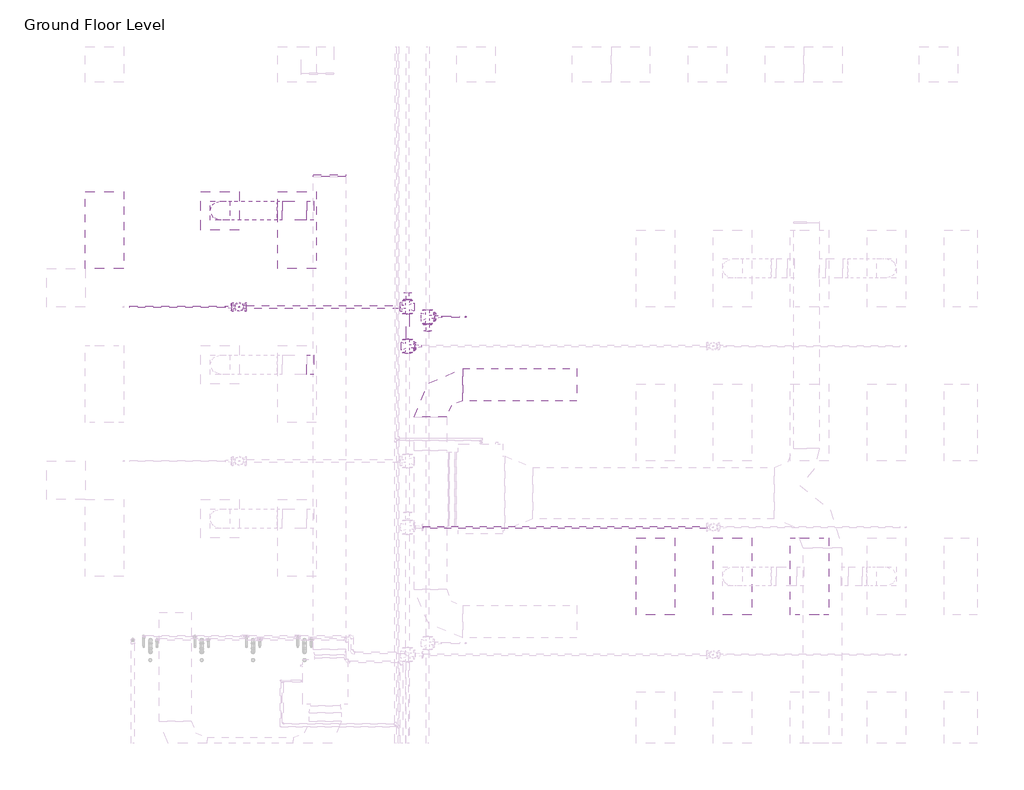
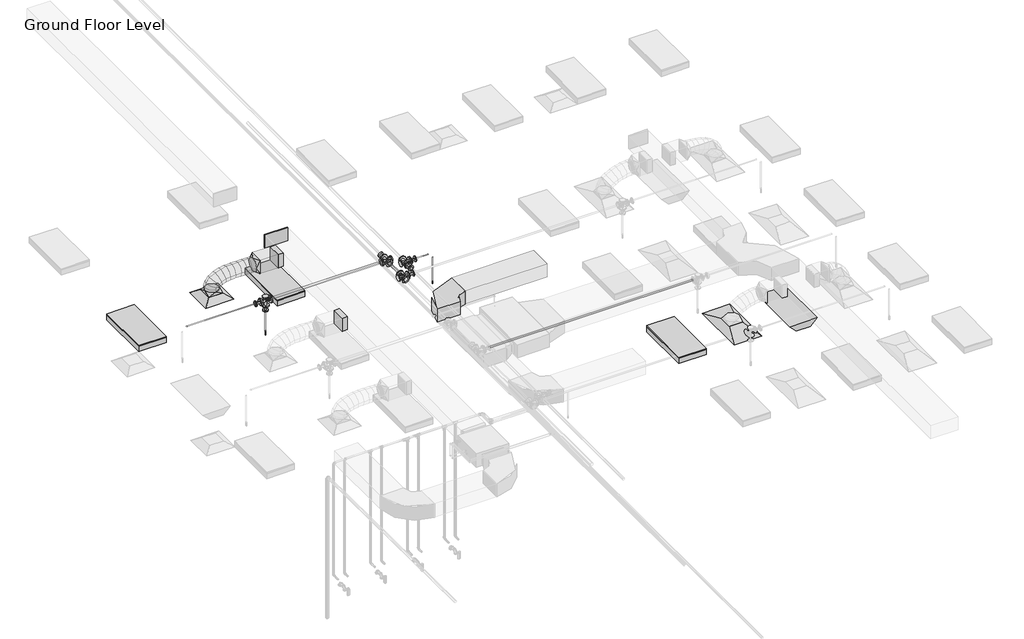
# One storey, part 27 of 75: 10 pipe fittings, 7 pipe segments, 6 duct fittings, 4 light fixtures, 3 duct segments, 2 air terminals, 2 fire suppression terminals.
"""IFC4 building model written with IfcOpenShell, lengths in millimetres."""

from ifc_helpers import new_model, si_unit, point, frame, frame_2d, origin, place, context, project, spatial, polyline, circle_curve, ellipse_curve, trimmed, segment, composite_curve, outline, extrude, transform, mapped, element, save
from ifc_brep_helpers import plane_surface, cylinder_surface, advanced_brep
from components import m_return_diffuser_1200x600_1200_x_600_face_300_x_300_d1983ef6, m_return_diffuser_600_x_600_face_300_x_300_connection_ff221211, m_rectangular_elbow_radius_1_w_abe20169, m_rectangular_endcap_standard_72d4d00d, m_rectangular_takeoff_standard_cb0ccb98, m_rectangular_to_round_transition_angle_45_degree_641efff0, m_sprinkler_dry_pendent_hosted_15_mm_dry_pendent_9bda8e11, m_sprinkler_pendent_15_mm_pendent_06fcbd8e, m_emergency_recessed_lighting_fixture_600x1200_277_5b10b25d, m_troffer_light_parabolic_rectangular1_0600x1200mm_4_lamp_86473d4a, m_reducer_flanged_cs_class_150_standard_83138b42, m_reducer_flanged_cs_class_150_standard_564df86d, m_reducer_flanged_cs_class_150_standard_8338f9e4, m_reducer_flanged_cs_class_150_standard_dc68ad9d, m_tee_round_base_flanged_cs_class_150_standard_ab36f383

model = new_model("IFC4")

# Units and contexts
model_context = context("Model", 3, world=origin())
ifc_project = project(units=[si_unit("LENGTHUNIT", "METRE", prefix="MILLI")], contexts=[model_context])

# Site, building, storey
site = spatial("IfcSite", under=ifc_project)
building = spatial("IfcBuilding", under=site)
storey = spatial("IfcBuildingStorey", under=building, Name="Ground Floor Level", Elevation=900.0)

# Air terminals
placement = place(None, origin())
m_return_diffuser_1200x600_1200_x_600_face_300_x_300_shape = m_return_diffuser_1200x600_1200_x_600_face_300_x_300_d1983ef6(model_context)
element("IfcAirTerminal", 1, ObjectType="M_Supply Diffuser 1200x600 : 1200 x 600 Face 300 x 300 Connection", at=placement, inside=storey, context=model_context, shape_type="MappedRepresentation", body=[
    mapped(m_return_diffuser_1200x600_1200_x_600_face_300_x_300_shape, transform((10743.0482736, -22864.7846466, 3650.0), x_axis=(0.0, 1.0, 0.0), y_axis=(-1.0, 0.0, 0.0), z_axis=(0.0, 0.0, 1.0))),
])
m_return_diffuser_600_x_600_face_300_x_300_connection_shape = m_return_diffuser_600_x_600_face_300_x_300_connection_ff221211(model_context)
element("IfcAirTerminal", 2, ObjectType="M_Supply Diffuser : 600 x 600 Face 300 x 300 Connection", at=placement, inside=storey, context=model_context, shape_type="MappedRepresentation", body=[
    mapped(m_return_diffuser_600_x_600_face_300_x_300_connection_shape, transform((2762.7672395, -17164.7846466, 3650.0), x_axis=(1.0, 0.0, 0.0), y_axis=(0.0, 1.0, 0.0), z_axis=(0.0, 0.0, 1.0))),
])

# Duct fittings
m_rectangular_elbow_radius_1_w_shape = m_rectangular_elbow_radius_1_w_abe20169(model_context)
element("IfcDuctFitting", 3, ObjectType="M_Rectangular Elbow - Radius : 1 W", at=placement, inside=storey, context=model_context, shape_type="MappedRepresentation", body=[
    mapped(m_rectangular_elbow_radius_1_w_shape, transform((6040.9897768, -19877.6206315, 4082.4543707), x_axis=(-1.0, 0.0, 0.0), y_axis=(0.0, -1.0, 0.0), z_axis=(0.0, 0.0, 1.0))),
])
m_rectangular_endcap_standard_shape = m_rectangular_endcap_standard_72d4d00d(model_context)
element("IfcDuctFitting", 4, ObjectType="M_Rectangular Endcap : Standard", at=placement, inside=storey, context=model_context, shape_type="MappedRepresentation", body=[
    mapped(m_rectangular_endcap_standard_shape, transform((4469.1581832, -16631.8627051, 4057.1429453), x_axis=(0.0, 0.999999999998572, -1.6899837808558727e-06), y_axis=(-1.0, 0.0, 0.0), z_axis=(0.0, 1.6899837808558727e-06, 0.999999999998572))),
])
m_rectangular_takeoff_standard_shape = m_rectangular_takeoff_standard_cb0ccb98(model_context)
element("IfcDuctFitting", 5, ObjectType="M_Rectangular Takeoff : Standard", at=placement, inside=storey, context=model_context, shape_type="MappedRepresentation", body=[
    mapped(m_rectangular_takeoff_standard_shape, transform((4219.1581832, -19564.7846466, 4057.1479019), x_axis=(-1.0, 0.0, 0.0), y_axis=(0.0, 1.0, 0.0), z_axis=(0.0, 0.0, -1.0))),
])
element("IfcDuctFitting", 6, ObjectType="M_Rectangular Takeoff : Standard", at=placement, inside=storey, context=model_context, shape_type="MappedRepresentation", body=[
    mapped(m_rectangular_takeoff_standard_shape, transform((4219.1581832, -17164.7846466, 4057.143846), x_axis=(-1.0, 0.0, 0.0), y_axis=(0.0, 1.0, 0.0), z_axis=(0.0, 0.0, -1.0))),
])
m_rectangular_to_round_transition_angle_45_degree_shape = m_rectangular_to_round_transition_angle_45_degree_641efff0(model_context)
element("IfcDuctFitting", 7, ObjectType="M_Rectangular to Round Transition - Angle : 45 Degree", at=placement, inside=storey, context=model_context, shape_type="MappedRepresentation", body=[
    mapped(m_rectangular_to_round_transition_angle_45_degree_shape, transform((2762.7672395, -17164.7846466, 3751.6), x_axis=(0.0, 0.0, 1.0), y_axis=(-1.0, 0.0, 0.0), z_axis=(0.0, -1.0, 0.0))),
])
element("IfcDuctFitting", 8, ObjectType="M_Rectangular to Round Transition - Angle : 45 Degree", at=placement, inside=storey, context=model_context, shape_type="MappedRepresentation", body=[
    mapped(m_rectangular_to_round_transition_angle_45_degree_shape, transform((3732.9593248, -17164.7846466, 4057.143846), x_axis=(-1.0, 0.0, 0.0), y_axis=(0.0, -1.0, 0.0), z_axis=(0.0, 0.0, 1.0))),
])

# Duct segments
element("IfcDuctSegment", 9, ObjectType="Flex - Round", at=placement, inside=storey, context=model_context, shape_type="AdvancedBrep", body=[
    advanced_brep(
    [(2912.7672395, -17164.7846466, 3826.6), (2762.7672395, -17314.7846466, 3826.6), (2612.7672395, -17164.7846466, 3826.6), (2762.7672395, -17014.7846466, 3826.6), (2912.7672395, -17164.7846466, 3832.8904054), (2762.7672395, -17314.7846466, 3856.84963), (2612.7672395, -17164.7846466, 3880.8088546), (2762.7672395, -17014.7846466, 3856.84963), (2914.0857611, -17164.7846466, 3836.9124951), (2779.5129985, -17314.7846466, 3907.9318018), (2644.940236, -17164.7846466, 3978.9511085), (2779.5129985, -17014.7846466, 3907.9318018), (2928.1333628, -17164.7846466, 3855.2232955), (2826.2863476, -17314.7846466, 3968.9000352), (2724.4393324, -17164.7846466, 4082.5767748), (2826.2863476, -17014.7846466, 3968.9000352), (2960.0749195, -17164.7846466, 3874.5762626), (2897.8913945, -17314.7846466, 4012.2845867), (2835.7078695, -17164.7846466, 4149.9929109), (2897.8913945, -17014.7846466, 4012.2845867), (3023.3474104, -17164.7846466, 3894.3960649), (2989.1322471, -17314.7846466, 4040.8653433), (2954.9170839, -17164.7846466, 4187.3346218), (2989.1322471, -17014.7846466, 4040.8653433), (3111.2188579, -17164.7846466, 3908.1627538), (3094.8130134, -17314.7846466, 4057.4221917), (3078.407169, -17164.7846466, 4206.6816296), (3094.8130134, -17014.7846466, 4057.4221917), (3215.0397402, -17164.7846466, 3914.7690234), (3209.7378012, -17314.7846466, 4064.7350186), (3204.4358622, -17164.7846466, 4214.7010137), (3209.7378012, -17014.7846466, 4064.7350186), (3327.4409955, -17164.7846466, 3915.5708367), (3328.7107184, -17314.7846466, 4065.5837107), (3329.9804412, -17164.7846466, 4215.5965847), (3328.7107184, -17014.7846466, 4065.5837107), (3442.2167216, -17164.7846466, 3912.8086677), (3446.5358728, -17314.7846466, 4062.7481548), (3450.855024, -17164.7846466, 4212.6876419), (3446.5358728, -17014.7846466, 4062.7481548), (3554.063392, -17164.7846466, 3909.0565), (3558.0173723, -17314.7846466, 4059.0082376), (3561.9713526, -17164.7846466, 4208.9599753), (3558.0173723, -17014.7846466, 4059.0082376), (3657.9593248, -17164.7846466, 3907.143846), (3657.9593248, -17014.7846466, 4057.143846), (3657.9593248, -17164.7846466, 4207.143846), (3657.9593248, -17314.7846466, 4057.143846), (3653.7223326, -17164.7846466, 3907.143846), (3655.1615998, -17314.7846466, 4057.143846), (3656.600867, -17164.7846466, 4207.143846), (3655.1615998, -17014.7846466, 4057.143846)],
    [
        (0, 1, circle_curve(frame((2762.7672395, -17164.7846466, 3826.6), z_axis=(0.0, 0.0, -1.0), x_axis=(1.0, 0.0, 0.0)), 150.0)),
        (1, 2, circle_curve(frame((2762.7672395, -17164.7846466, 3826.6), z_axis=(0.0, 0.0, -1.0), x_axis=(1.0, 0.0, 0.0)), 150.0)),
        (2, 3, circle_curve(frame((2762.7672395, -17164.7846466, 3826.6), z_axis=(0.0, 0.0, -1.0), x_axis=(1.0, 0.0, 0.0)), 150.0)),
        (3, 0, circle_curve(frame((2762.7672395, -17164.7846466, 3826.6), z_axis=(0.0, 0.0, -1.0), x_axis=(1.0, 0.0, 0.0)), 150.0)),
        (0, 4),
        (4, 5, ellipse_curve(frame((2762.7672395, -17164.7846466, 3856.84963), z_axis=(-0.1577287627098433, 0.0, -0.9874824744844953), x_axis=(0.9874824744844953, 0.0, -0.15772876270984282)), 151.90143, 150.0)),
        (5, 1),
        (5, 6, ellipse_curve(frame((2762.7672395, -17164.7846466, 3856.84963), z_axis=(-0.1577287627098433, 0.0, -0.9874824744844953), x_axis=(0.9874824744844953, 0.0, -0.15772876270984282)), 151.90143, 150.0)),
        (6, 2),
        (6, 7, ellipse_curve(frame((2762.7672395, -17164.7846466, 3856.84963), z_axis=(-0.1577287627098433, 0.0, -0.9874824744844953), x_axis=(0.9874824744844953, 0.0, -0.15772876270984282)), 151.90143, 150.0)),
        (7, 3),
        (7, 4, ellipse_curve(frame((2762.7672395, -17164.7846466, 3856.84963), z_axis=(-0.1577287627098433, 0.0, -0.9874824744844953), x_axis=(0.9874824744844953, 0.0, -0.15772876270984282)), 151.90143, 150.0)),
        (4, 8),
        (8, 9, ellipse_curve(frame((2779.5129985, -17164.7846466, 3907.9318018), z_axis=(-0.4667318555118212, 0.0, -0.8843988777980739), x_axis=(0.8843988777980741, 0.0, -0.4667318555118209)), 152.162973, 150.0)),
        (9, 5),
        (9, 10, ellipse_curve(frame((2779.5129985, -17164.7846466, 3907.9318018), z_axis=(-0.4667318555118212, 0.0, -0.8843988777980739), x_axis=(0.8843988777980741, 0.0, -0.4667318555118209)), 152.162973, 150.0)),
        (10, 6),
        (10, 11, ellipse_curve(frame((2779.5129985, -17164.7846466, 3907.9318018), z_axis=(-0.4667318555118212, 0.0, -0.8843988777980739), x_axis=(0.8843988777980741, 0.0, -0.4667318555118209)), 152.162973, 150.0)),
        (11, 7),
        (11, 8, ellipse_curve(frame((2779.5129985, -17164.7846466, 3907.9318018), z_axis=(-0.4667318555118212, 0.0, -0.8843988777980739), x_axis=(0.8843988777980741, 0.0, -0.4667318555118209)), 152.162973, 150.0)),
        (8, 12),
        (12, 13, ellipse_curve(frame((2826.2863476, -17164.7846466, 3968.9000352), z_axis=(-0.7447975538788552, 0.0, -0.6672904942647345), x_axis=(0.667290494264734, 0.0, -0.7447975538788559)), 152.6277027, 150.0)),
        (13, 9),
        (13, 14, ellipse_curve(frame((2826.2863476, -17164.7846466, 3968.9000352), z_axis=(-0.7447975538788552, 0.0, -0.6672904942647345), x_axis=(0.667290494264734, 0.0, -0.7447975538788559)), 152.6277027, 150.0)),
        (14, 10),
        (14, 15, ellipse_curve(frame((2826.2863476, -17164.7846466, 3968.9000352), z_axis=(-0.7447975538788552, 0.0, -0.6672904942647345), x_axis=(0.667290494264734, 0.0, -0.7447975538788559)), 152.6277027, 150.0)),
        (15, 11),
        (15, 12, ellipse_curve(frame((2826.2863476, -17164.7846466, 3968.9000352), z_axis=(-0.7447975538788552, 0.0, -0.6672904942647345), x_axis=(0.667290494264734, 0.0, -0.7447975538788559)), 152.6277027, 150.0)),
        (12, 16),
        (16, 17, ellipse_curve(frame((2897.8913945, -17164.7846466, 4012.2845867), z_axis=(-0.9113887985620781, 0.0, -0.41154642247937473), x_axis=(0.41154642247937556, 0.0, -0.9113887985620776)), 151.0972314, 150.0)),
        (17, 13),
        (17, 18, ellipse_curve(frame((2897.8913945, -17164.7846466, 4012.2845867), z_axis=(-0.9113887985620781, 0.0, -0.41154642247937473), x_axis=(0.41154642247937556, 0.0, -0.9113887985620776)), 151.0972314, 150.0)),
        (18, 14),
        (18, 19, ellipse_curve(frame((2897.8913945, -17164.7846466, 4012.2845867), z_axis=(-0.9113887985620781, 0.0, -0.41154642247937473), x_axis=(0.41154642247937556, 0.0, -0.9113887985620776)), 151.0972314, 150.0)),
        (19, 15),
        (19, 16, ellipse_curve(frame((2897.8913945, -17164.7846466, 4012.2845867), z_axis=(-0.9113887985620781, 0.0, -0.41154642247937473), x_axis=(0.41154642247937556, 0.0, -0.9113887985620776)), 151.0972314, 150.0)),
        (16, 20),
        (20, 21, ellipse_curve(frame((2989.1322471, -17164.7846466, 4040.8653433), z_axis=(-0.9737838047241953, 0.0, -0.2274754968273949), x_axis=(0.22747549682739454, 0.0, -0.9737838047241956)), 150.4125225, 150.0)),
        (21, 17),
        (21, 22, ellipse_curve(frame((2989.1322471, -17164.7846466, 4040.8653433), z_axis=(-0.9737838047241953, 0.0, -0.2274754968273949), x_axis=(0.22747549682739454, 0.0, -0.9737838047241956)), 150.4125225, 150.0)),
        (22, 18),
        (22, 23, ellipse_curve(frame((2989.1322471, -17164.7846466, 4040.8653433), z_axis=(-0.9737838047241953, 0.0, -0.2274754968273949), x_axis=(0.22747549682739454, 0.0, -0.9737838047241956)), 150.4125225, 150.0)),
        (23, 19),
        (23, 20, ellipse_curve(frame((2989.1322471, -17164.7846466, 4040.8653433), z_axis=(-0.9737838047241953, 0.0, -0.2274754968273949), x_axis=(0.22747549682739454, 0.0, -0.9737838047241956)), 150.4125225, 150.0)),
        (20, 24),
        (24, 25, ellipse_curve(frame((3094.8130134, -17164.7846466, 4057.4221917), z_axis=(-0.9940135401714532, 0.0, -0.10925695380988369), x_axis=(0.1092569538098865, 0.0, -0.9940135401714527)), 150.1583549, 150.0)),
        (25, 21),
        (25, 26, ellipse_curve(frame((3094.8130134, -17164.7846466, 4057.4221917), z_axis=(-0.9940135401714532, 0.0, -0.10925695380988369), x_axis=(0.1092569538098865, 0.0, -0.9940135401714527)), 150.1583549, 150.0)),
        (26, 22),
        (26, 27, ellipse_curve(frame((3094.8130134, -17164.7846466, 4057.4221917), z_axis=(-0.9940135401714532, 0.0, -0.10925695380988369), x_axis=(0.1092569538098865, 0.0, -0.9940135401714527)), 150.1583549, 150.0)),
        (27, 23),
        (27, 24, ellipse_curve(frame((3094.8130134, -17164.7846466, 4057.4221917), z_axis=(-0.9940135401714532, 0.0, -0.10925695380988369), x_axis=(0.1092569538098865, 0.0, -0.9940135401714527)), 150.1583549, 150.0)),
        (24, 28),
        (28, 29, ellipse_curve(frame((3209.7378012, -17164.7846466, 4064.7350186), z_axis=(-0.999375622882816, 0.0, -0.035332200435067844), x_axis=(0.035332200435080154, 0.0, -0.9993756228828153)), 150.059689, 150.0)),
        (29, 25),
        (29, 30, ellipse_curve(frame((3209.7378012, -17164.7846466, 4064.7350186), z_axis=(-0.999375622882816, 0.0, -0.035332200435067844), x_axis=(0.035332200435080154, 0.0, -0.9993756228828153)), 150.059689, 150.0)),
        (30, 26),
        (30, 31, ellipse_curve(frame((3209.7378012, -17164.7846466, 4064.7350186), z_axis=(-0.999375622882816, 0.0, -0.035332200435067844), x_axis=(0.035332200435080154, 0.0, -0.9993756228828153)), 150.059689, 150.0)),
        (31, 27),
        (31, 28, ellipse_curve(frame((3209.7378012, -17164.7846466, 4064.7350186), z_axis=(-0.999375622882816, 0.0, -0.035332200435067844), x_axis=(0.035332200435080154, 0.0, -0.9993756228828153)), 150.059689, 150.0)),
        (28, 32),
        (32, 33, ellipse_curve(frame((3328.7107184, -17164.7846466, 4065.5837107), z_axis=(-0.9999641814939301, 0.0, 0.008463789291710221), x_axis=(-0.00846378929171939, 0.0, -0.9999641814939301)), 150.0182474, 150.0)),
        (33, 29),
        (33, 34, ellipse_curve(frame((3328.7107184, -17164.7846466, 4065.5837107), z_axis=(-0.9999641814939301, 0.0, 0.008463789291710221), x_axis=(-0.00846378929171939, 0.0, -0.9999641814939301)), 150.0182474, 150.0)),
        (34, 30),
        (34, 35, ellipse_curve(frame((3328.7107184, -17164.7846466, 4065.5837107), z_axis=(-0.9999641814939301, 0.0, 0.008463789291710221), x_axis=(-0.00846378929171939, 0.0, -0.9999641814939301)), 150.0182474, 150.0)),
        (35, 31),
        (35, 32, ellipse_curve(frame((3328.7107184, -17164.7846466, 4065.5837107), z_axis=(-0.9999641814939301, 0.0, 0.008463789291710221), x_axis=(-0.00846378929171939, 0.0, -0.9999641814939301)), 150.0182474, 150.0)),
        (32, 36),
        (36, 37, ellipse_curve(frame((3446.5358728, -17164.7846466, 4062.7481548), z_axis=(-0.9995853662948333, 0.0, 0.02879401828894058), x_axis=(-0.028794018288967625, -3.989114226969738e-12, -0.9995853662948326)), 150.0016828, 150.0)),
        (37, 33),
        (37, 38, ellipse_curve(frame((3446.5358728, -17164.7846466, 4062.7481548), z_axis=(-0.9995853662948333, 0.0, 0.02879401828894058), x_axis=(-0.028794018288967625, -3.989114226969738e-12, -0.9995853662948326)), 150.0016828, 150.0)),
        (38, 34),
        (38, 39, ellipse_curve(frame((3446.5358728, -17164.7846466, 4062.7481548), z_axis=(-0.9995853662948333, 0.0, 0.02879401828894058), x_axis=(-0.028794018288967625, -3.989114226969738e-12, -0.9995853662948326)), 150.0016828, 150.0)),
        (39, 35),
        (39, 36, ellipse_curve(frame((3446.5358728, -17164.7846466, 4062.7481548), z_axis=(-0.9995853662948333, 0.0, 0.02879401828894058), x_axis=(-0.028794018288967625, -3.989114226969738e-12, -0.9995853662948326)), 150.0016828, 150.0)),
        (36, 40),
        (40, 41, ellipse_curve(frame((3558.0173723, -17164.7846466, 4059.0082376), z_axis=(-0.9996525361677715, 0.0, 0.026359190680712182), x_axis=(0.026359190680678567, 1.3534899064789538e-12, 0.9996525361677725)), 150.0038586, 150.0)),
        (41, 37),
        (41, 42, ellipse_curve(frame((3558.0173723, -17164.7846466, 4059.0082376), z_axis=(-0.9996525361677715, 0.0, 0.026359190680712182), x_axis=(0.026359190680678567, 1.3534899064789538e-12, 0.9996525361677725)), 150.0038586, 150.0)),
        (42, 38),
        (42, 43, ellipse_curve(frame((3558.0173723, -17164.7846466, 4059.0082376), z_axis=(-0.9996525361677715, 0.0, 0.026359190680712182), x_axis=(0.026359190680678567, 1.3534899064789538e-12, 0.9996525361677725)), 150.0038586, 150.0)),
        (43, 39),
        (43, 40, ellipse_curve(frame((3558.0173723, -17164.7846466, 4059.0082376), z_axis=(-0.9996525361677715, 0.0, 0.026359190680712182), x_axis=(0.026359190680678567, 1.3534899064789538e-12, 0.9996525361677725)), 150.0038586, 150.0)),
        (44, 45, circle_curve(frame((3657.9593248, -17164.7846466, 4057.143846), z_axis=(1.0, 0.0, 0.0), x_axis=(0.0, 0.0, -1.0)), 150.0)),
        (45, 46, circle_curve(frame((3657.9593248, -17164.7846466, 4057.143846), z_axis=(1.0, 0.0, 0.0), x_axis=(0.0, 0.0, -1.0)), 150.0)),
        (46, 47, circle_curve(frame((3657.9593248, -17164.7846466, 4057.143846), z_axis=(1.0, 0.0, 0.0), x_axis=(0.0, 0.0, -1.0)), 150.0)),
        (47, 44, circle_curve(frame((3657.9593248, -17164.7846466, 4057.143846), z_axis=(1.0, 0.0, 0.0), x_axis=(0.0, 0.0, -1.0)), 150.0)),
        (40, 48),
        (48, 49, ellipse_curve(frame((3655.1615998, -17164.7846466, 4057.143846), z_axis=(-0.999953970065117, 0.0, 0.009594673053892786), x_axis=(0.00959467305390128, 0.0, 0.999953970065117)), 150.0069048, 150.0)),
        (49, 41),
        (49, 50, ellipse_curve(frame((3655.1615998, -17164.7846466, 4057.143846), z_axis=(-0.999953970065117, 0.0, 0.009594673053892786), x_axis=(0.00959467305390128, 0.0, 0.999953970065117)), 150.0069048, 150.0)),
        (50, 42),
        (50, 51, ellipse_curve(frame((3655.1615998, -17164.7846466, 4057.143846), z_axis=(-0.999953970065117, 0.0, 0.009594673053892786), x_axis=(0.00959467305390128, 0.0, 0.999953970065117)), 150.0069048, 150.0)),
        (51, 43),
        (51, 48, ellipse_curve(frame((3655.1615998, -17164.7846466, 4057.143846), z_axis=(-0.999953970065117, 0.0, 0.009594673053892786), x_axis=(0.00959467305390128, 0.0, 0.999953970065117)), 150.0069048, 150.0)),
        (48, 44),
        (47, 49),
        (46, 50),
        (45, 51),
    ],
    [
        plane_surface(frame((2762.7672395, -17314.7846466, 3826.6), z_axis=(0.0, 0.0, -1.0), x_axis=(1.0, 0.0, 0.0))),
        cylinder_surface(frame((2762.7672395, -17164.7846466, 3826.6), z_axis=(0.0, 0.0, -1.0), x_axis=(1.0, 0.0, 0.0)), 150.0),
        cylinder_surface(frame((2762.7672395, -17164.7846466, 3856.84963), z_axis=(-0.3115087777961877, 0.0, -0.9502432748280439), x_axis=(0.9502432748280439, 0.0, -0.3115087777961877)), 150.0),
        cylinder_surface(frame((2779.5129985, -17164.7846466, 3907.9318018), z_axis=(-0.6086858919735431, 0.0, -0.7934112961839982), x_axis=(0.7934112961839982, 0.0, -0.6086858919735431)), 150.0),
        cylinder_surface(frame((2826.2863476, -17164.7846466, 3968.9000352), z_axis=(-0.8552637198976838, 0.0, -0.5181929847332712), x_axis=(0.5181929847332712, 0.0, -0.8552637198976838)), 150.0),
        cylinder_surface(frame((2897.8913945, -17164.7846466, 4012.2845867), z_axis=(-0.9542773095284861, 0.0, -0.2989227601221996), x_axis=(0.2989227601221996, 0.0, -0.9542773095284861)), 150.0),
        cylinder_surface(frame((2989.1322471, -17164.7846466, 4040.8653433), z_axis=(-0.9879488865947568, 0.0, -0.15478048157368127), x_axis=(0.15478048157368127, 0.0, -0.9879488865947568)), 150.0),
        cylinder_surface(frame((3094.8130134, -17164.7846466, 4057.4221917), z_axis=(-0.9979816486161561, 0.0, -0.06350298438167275), x_axis=(0.06350298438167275, 0.0, -0.9979816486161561)), 150.0),
        cylinder_surface(frame((3209.7378012, -17164.7846466, 4064.7350186), z_axis=(-0.9999745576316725, 0.0, -0.007133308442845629), x_axis=(0.007133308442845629, 0.0, -0.9999745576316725)), 150.0),
        cylinder_surface(frame((3328.7107184, -17164.7846466, 4065.5837107), z_axis=(-0.9997105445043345, 0.0, 0.024058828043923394), x_axis=(-0.024058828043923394, 0.0, -0.9997105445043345)), 150.0),
        cylinder_surface(frame((3446.5358728, -17164.7846466, 4062.7481548), z_axis=(-0.9994377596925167, 0.0, 0.03352856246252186), x_axis=(-0.03352856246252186, 0.0, -0.9994377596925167)), 150.0),
        plane_surface(frame((3657.9593248, -17164.7846466, 3907.143846), z_axis=(1.0, 0.0, 0.0), x_axis=(0.0, 1.0, 0.0))),
        cylinder_surface(frame((3558.0173723, -17164.7846466, 4059.0082376), z_axis=(-0.9998158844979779, 0.0, 0.019188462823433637), x_axis=(-0.019188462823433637, 0.0, -0.9998158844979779)), 150.0),
        cylinder_surface(frame((3655.1615998, -17164.7846466, 4057.143846), z_axis=(-1.0, 0.0, 0.0), x_axis=(0.0, 0.0, -1.0)), 150.0),
    ],
    [
        (0, [[1, 2, 3, 4]]),
        (1, [[-1, 5, 6, 7]]),
        (1, [[-2, -7, 8, 9]]),
        (1, [[-3, -9, 10, 11]]),
        (1, [[-4, -11, 12, -5]]),
        (2, [[-6, 13, 14, 15]]),
        (2, [[-8, -15, 16, 17]]),
        (2, [[-10, -17, 18, 19]]),
        (2, [[-12, -19, 20, -13]]),
        (3, [[-14, 21, 22, 23]]),
        (3, [[-16, -23, 24, 25]]),
        (3, [[-18, -25, 26, 27]]),
        (3, [[-20, -27, 28, -21]]),
        (4, [[-22, 29, 30, 31]]),
        (4, [[-24, -31, 32, 33]]),
        (4, [[-26, -33, 34, 35]]),
        (4, [[-28, -35, 36, -29]]),
        (5, [[-30, 37, 38, 39]]),
        (5, [[-32, -39, 40, 41]]),
        (5, [[-34, -41, 42, 43]]),
        (5, [[-36, -43, 44, -37]]),
        (6, [[-38, 45, 46, 47]]),
        (6, [[-40, -47, 48, 49]]),
        (6, [[-42, -49, 50, 51]]),
        (6, [[-44, -51, 52, -45]]),
        (7, [[-46, 53, 54, 55]]),
        (7, [[-48, -55, 56, 57]]),
        (7, [[-50, -57, 58, 59]]),
        (7, [[-52, -59, 60, -53]]),
        (8, [[-54, 61, 62, 63]]),
        (8, [[-56, -63, 64, 65]]),
        (8, [[-58, -65, 66, 67]]),
        (8, [[-60, -67, 68, -61]]),
        (9, [[-62, 69, 70, 71]]),
        (9, [[-64, -71, 72, 73]]),
        (9, [[-66, -73, 74, 75]]),
        (9, [[-68, -75, 76, -69]]),
        (10, [[-70, 77, 78, 79]]),
        (10, [[-72, -79, 80, 81]]),
        (10, [[-74, -81, 82, 83]]),
        (10, [[-76, -83, 84, -77]]),
        (11, [[85, 86, 87, 88]]),
        (12, [[-78, 89, 90, 91]]),
        (12, [[-80, -91, 92, 93]]),
        (12, [[-82, -93, 94, 95]]),
        (12, [[-84, -95, 96, -89]]),
        (13, [[-90, 97, -88, 98]]),
        (13, [[-92, -98, -87, 99]]),
        (13, [[-94, -99, -86, 100]]),
        (13, [[-96, -100, -85, -97]]),
    ],
),
])
element("IfcDuctSegment", 10, ObjectType="Radius Elbows / Taps", at=placement, inside=storey, context=model_context, shape_type="SweptSolid", body=[
    extrude(outline(polyline([(6540.9897768, -20127.6206315), (6540.9897768, -19627.6206315), (8320.9897766, -19627.6206315), (8320.9897766, -20127.6206315), (6540.9897768, -20127.6206315)])), frame((0.0, 0.0, 3932.4543707), z_axis=(0.0, 0.0, 1.0), x_axis=(1.0, 0.0, 0.0)), (0.0, 0.0, 1.0), 300.0),
])
element("IfcDuctSegment", 11, ObjectType="Radius Elbows / Taps", at=placement, inside=storey, context=model_context, shape_type="SweptSolid", body=[
    extrude(outline(polyline([(4117.5581832, -17014.7846466), (4117.5581832, -17314.7846466), (3732.9593248, -17314.7846466), (3732.9593248, -17014.7846466), (4117.5581832, -17014.7846466)])), frame((0.0, 0.0, 3907.143846), z_axis=(0.0, 0.0, 1.0), x_axis=(1.0, 0.0, 0.0)), (0.0, 0.0, 1.0), 300.0),
])

# Fire suppression terminals
m_sprinkler_dry_pendent_hosted_15_mm_dry_pendent_shape = m_sprinkler_dry_pendent_hosted_15_mm_dry_pendent_9bda8e11(model_context)
element("IfcFireSuppressionTerminal", 12, ObjectType="M_Sprinkler - Dry - Pendent - Hosted : 15 mm Dry Pendent", at=placement, inside=storey, context=model_context, shape_type="MappedRepresentation", body=[
    mapped(m_sprinkler_dry_pendent_hosted_15_mm_dry_pendent_shape, transform((3062.7672395, -18664.7846466, 3650.0), x_axis=(1.0, 0.0, 0.0), y_axis=(0.0, -1.0, 0.0), z_axis=(0.0, 0.0, -1.0))),
])
m_sprinkler_pendent_15_mm_pendent_shape = m_sprinkler_pendent_15_mm_pendent_06fcbd8e(model_context)
element("IfcFireSuppressionTerminal", 13, ObjectType="M_Sprinkler - Pendent : 15 mm Pendent", at=placement, inside=storey, context=model_context, shape_type="MappedRepresentation", body=[
    mapped(m_sprinkler_pendent_15_mm_pendent_shape, transform((6592.5481019, -18818.869914, 3650.0), x_axis=(1.0, 0.0, 0.0), y_axis=(0.0, 1.0, 0.0), z_axis=(0.0, 0.0, 1.0))),
])

# Light fixtures
m_emergency_recessed_lighting_fixture_600x1200_277_shape = m_emergency_recessed_lighting_fixture_600x1200_277_5b10b25d(model_context)
element("IfcLightFixture", 14, ObjectType="M_Emergency Recessed Lighting Fixture : 600x1200 - 277", at=placement, inside=storey, context=model_context, shape_type="MappedRepresentation", body=[
    mapped(m_emergency_recessed_lighting_fixture_600x1200_277_shape, transform((11643.0482736, -23464.7846466, 3650.0), x_axis=(0.0, 1.0, 0.0), y_axis=(-1.0, 0.0, 0.0), z_axis=(0.0, 0.0, 1.0))),
])
m_troffer_light_parabolic_rectangular1_0600x1200mm_4_lamp_shape = m_troffer_light_parabolic_rectangular1_0600x1200mm_4_lamp_86473d4a(model_context)
element("IfcLightFixture", 15, ObjectType="M_Troffer Light - Parabolic Rectangular1 : 0600x1200mm(4 Lamp) - 277V 2", at=placement, inside=storey, context=model_context, shape_type="MappedRepresentation", body=[
    mapped(m_troffer_light_parabolic_rectangular1_0600x1200mm_4_lamp_shape, transform((903.3013074, -17446.081145, 3650.0), x_axis=(0.0, 1.0, 0.0), y_axis=(-1.0, 0.0, 0.0), z_axis=(0.0, 0.0, 1.0))),
])
element("IfcLightFixture", 16, ObjectType="M_Troffer Light - Parabolic Rectangular1 : 0600x1200mm(4 Lamp) - 277V 2", at=placement, inside=storey, context=model_context, shape_type="MappedRepresentation", body=[
    mapped(m_troffer_light_parabolic_rectangular1_0600x1200mm_4_lamp_shape, transform((3903.3013074, -17446.081145, 3650.0), x_axis=(0.0, 1.0, 0.0), y_axis=(-1.0, 0.0, 0.0), z_axis=(0.0, 0.0, 1.0))),
])
element("IfcLightFixture", 17, ObjectType="M_Troffer Light - Parabolic Rectangular1 : 0600x1200mm(4 Lamp) - 277V 2", at=placement, inside=storey, context=model_context, shape_type="MappedRepresentation", body=[
    mapped(m_troffer_light_parabolic_rectangular1_0600x1200mm_4_lamp_shape, transform((9483.5823415, -22846.081145, 3650.0), x_axis=(0.0, 1.0, 0.0), y_axis=(-1.0, 0.0, 0.0), z_axis=(0.0, 0.0, 1.0))),
])

# Pipe fittings
m_reducer_flanged_cs_class_150_standard_shape = m_reducer_flanged_cs_class_150_standard_83138b42(model_context)
element("IfcPipeFitting", 18, ObjectType="M_Reducer - Flanged - CS - Class 150 : Standard", at=placement, inside=storey, context=model_context, shape_type="MappedRepresentation", body=[
    mapped(m_reducer_flanged_cs_class_150_standard_shape, transform((6109.3164057, -18818.869914, 4291.2754753), x_axis=(1.0, 0.0, 0.0), y_axis=(0.0, 0.0, -1.0), z_axis=(0.0, 1.0, 0.0))),
])
m_reducer_flanged_cs_class_150_standard_2_shape = m_reducer_flanged_cs_class_150_standard_564df86d(model_context)
element("IfcPipeFitting", 19, ObjectType="M_Reducer - Flanged - CS - Class 150 : Standard", at=placement, inside=storey, context=model_context, shape_type="MappedRepresentation", body=[
    mapped(m_reducer_flanged_cs_class_150_standard_2_shape, transform((5997.057812, -18931.1285077, 4291.0943441), x_axis=(0.0, -1.0, 0.0), y_axis=(1.0, 0.0, 0.0), z_axis=(0.0, 0.0, 1.0))),
])
element("IfcPipeFitting", 20, ObjectType="M_Reducer - Flanged - CS - Class 150 : Standard", at=placement, inside=storey, context=model_context, shape_type="MappedRepresentation", body=[
    mapped(m_reducer_flanged_cs_class_150_standard_2_shape, transform((5684.6174894, -18552.5260529, 4347.5), x_axis=(0.0, 1.0, 0.0), y_axis=(-1.0, 0.0, 0.0), z_axis=(0.0, 0.0, 1.0))),
])
m_reducer_flanged_cs_class_150_standard_3_shape = m_reducer_flanged_cs_class_150_standard_8338f9e4(model_context)
element("IfcPipeFitting", 21, ObjectType="M_Reducer - Flanged - CS - Class 150 : Standard", at=placement, inside=storey, context=model_context, shape_type="MappedRepresentation", body=[
    mapped(m_reducer_flanged_cs_class_150_standard_3_shape, transform((5796.8760832, -19275.8856124, 4347.5), x_axis=(1.0, 0.0, 0.0), y_axis=(0.0, 0.0, 1.0), z_axis=(0.0, -1.0, 0.0))),
])
m_reducer_flanged_cs_class_150_standard_4_shape = m_reducer_flanged_cs_class_150_standard_dc68ad9d(model_context)
element("IfcPipeFitting", 22, ObjectType="M_Reducer - Flanged - CS - Class 150 : Standard", at=placement, inside=storey, context=model_context, shape_type="MappedRepresentation", body=[
    mapped(m_reducer_flanged_cs_class_150_standard_4_shape, transform((2950.5086457, -18664.7846466, 4347.5), x_axis=(-1.0, 0.0, 0.0), y_axis=(0.0, 0.0, 1.0), z_axis=(0.0, 1.0, 0.0))),
])
element("IfcPipeFitting", 23, ObjectType="M_Reducer - Flanged - CS - Class 150 : Standard", at=placement, inside=storey, context=model_context, shape_type="MappedRepresentation", body=[
    mapped(m_reducer_flanged_cs_class_150_standard_4_shape, transform((3062.7672395, -18664.7846466, 4235.2414062), x_axis=(0.0, 0.0, -1.0), y_axis=(-1.0, 0.0, 0.0), z_axis=(0.0, 1.0, 0.0))),
])
m_tee_round_base_flanged_cs_class_150_standard_shape = m_tee_round_base_flanged_cs_class_150_standard_ab36f383(model_context)
element("IfcPipeFitting", 24, ObjectType="M_Tee Round Base - Flanged - CS - Class 150 : Standard", at=placement, inside=storey, context=model_context, shape_type="MappedRepresentation", body=[
    mapped(m_tee_round_base_flanged_cs_class_150_standard_shape, transform((5997.057812, -18818.869914, 4291.0943441), x_axis=(0.0, 1.0, 0.0), y_axis=(-1.0, 0.0, 0.0), z_axis=(0.0, 0.0, 1.0))),
])
element("IfcPipeFitting", 25, ObjectType="M_Tee Round Base - Flanged - CS - Class 150 : Standard", at=placement, inside=storey, context=model_context, shape_type="MappedRepresentation", body=[
    mapped(m_tee_round_base_flanged_cs_class_150_standard_shape, transform((5684.6174894, -19275.8856124, 4347.5), x_axis=(0.0, -1.0, 0.0), y_axis=(-1.0, 0.0, 0.0), z_axis=(0.0, 0.0, -1.0))),
])
element("IfcPipeFitting", 26, ObjectType="M_Tee Round Base - Flanged - CS - Class 150 : Standard", at=placement, inside=storey, context=model_context, shape_type="MappedRepresentation", body=[
    mapped(m_tee_round_base_flanged_cs_class_150_standard_shape, transform((5684.6174894, -18664.7846466, 4347.5), x_axis=(0.0, -1.0, 0.0), y_axis=(1.0, 0.0, 0.0), z_axis=(0.0, 0.0, 1.0))),
])
element("IfcPipeFitting", 27, ObjectType="M_Tee Round Base - Flanged - CS - Class 150 : Standard", at=placement, inside=storey, context=model_context, shape_type="MappedRepresentation", body=[
    mapped(m_tee_round_base_flanged_cs_class_150_standard_shape, transform((3062.7672395, -18664.7846466, 4347.5), x_axis=(-1.0, 0.0, 0.0), y_axis=(0.0, 0.0, 1.0), z_axis=(0.0, 1.0, 0.0))),
])

# Pipe segments
element("IfcPipeSegment", 28, ObjectType="Steel flanged", at=placement, inside=storey, context=model_context, shape_type="SweptSolid", body=[
    extrude(outline(composite_curve([segment(trimmed(circle_curve(frame_2d((6592.5481019, -18818.869914)), 10.668), [point((6581.8801019, -18818.869914))], [point((6592.5481019, -18808.201914))], False, "CARTESIAN"), True, "CONTINUOUS"), segment(trimmed(circle_curve(frame_2d((6592.5481019, -18818.869914)), 10.668), [point((6592.5481019, -18808.201914))], [point((6603.2161019, -18818.869914))], False, "CARTESIAN"), True, "CONTINUOUS"), segment(trimmed(circle_curve(frame_2d((6592.5481019, -18818.869914)), 10.668), [point((6603.2161019, -18818.869914))], [point((6592.5481019, -18829.537914))], False, "CARTESIAN"), True, "CONTINUOUS"), segment(trimmed(circle_curve(frame_2d((6592.5481019, -18818.869914)), 10.668), [point((6592.5481019, -18829.537914))], [point((6581.8801019, -18818.869914))], False, "CARTESIAN"), True, "CONTINUOUS")], self_intersect=False)), frame((0.0, 0.0, 3650.0), z_axis=(0.0, 0.0, 1.0), x_axis=(1.0, 0.0, 0.0)), (0.0, 0.0, 1.0), 548.2668816),
])
element("IfcPipeSegment", 29, ObjectType="Steel flanged", at=placement, inside=storey, context=model_context, shape_type="SweptSolid", body=[
    extrude(outline(composite_curve([segment(trimmed(circle_curve(frame_2d((-18818.869914, 4291.2754753)), 10.668), [point((-18808.201914, 4291.2754753))], [point((-18818.869914, 4280.6074753))], False, "CARTESIAN"), True, "CONTINUOUS"), segment(trimmed(circle_curve(frame_2d((-18818.869914, 4291.2754753)), 10.668), [point((-18818.869914, 4280.6074753))], [point((-18829.537914, 4291.2754753))], False, "CARTESIAN"), True, "CONTINUOUS"), segment(trimmed(circle_curve(frame_2d((-18818.869914, 4291.2754753)), 10.668), [point((-18829.537914, 4291.2754753))], [point((-18818.869914, 4301.9434753))], False, "CARTESIAN"), True, "CONTINUOUS"), segment(trimmed(circle_curve(frame_2d((-18818.869914, 4291.2754753)), 10.668), [point((-18818.869914, 4301.9434753))], [point((-18808.201914, 4291.2754753))], False, "CARTESIAN"), True, "CONTINUOUS")], self_intersect=False)), frame((6223.3164057, 0.0, 0.0), z_axis=(1.0, 0.0, 0.0), x_axis=(0.0, 1.0, 0.0)), (0.0, 0.0, 1.0), 276.2231025),
])
element("IfcPipeSegment", 30, ObjectType="Steel flanged", at=placement, inside=storey, context=model_context, shape_type="SweptSolid", body=[
    extrude(outline(composite_curve([segment(trimmed(circle_curve(frame_2d((4347.5, 5684.6174894)), 24.13), [point((4347.5, 5708.7474894))], [point((4371.63, 5684.6174894))], False, "CARTESIAN"), True, "CONTINUOUS"), segment(trimmed(circle_curve(frame_2d((4347.5, 5684.6174894)), 24.13), [point((4371.63, 5684.6174894))], [point((4347.5, 5660.4874894))], False, "CARTESIAN"), True, "CONTINUOUS"), segment(trimmed(circle_curve(frame_2d((4347.5, 5684.6174894)), 24.13), [point((4347.5, 5660.4874894))], [point((4323.37, 5684.6174894))], False, "CARTESIAN"), True, "CONTINUOUS"), segment(trimmed(circle_curve(frame_2d((4347.5, 5684.6174894)), 24.13), [point((4323.37, 5684.6174894))], [point((4347.5, 5708.7474894))], False, "CARTESIAN"), True, "CONTINUOUS")], self_intersect=False)), frame((0.0, -19163.6270186, 0.0), z_axis=(0.0, 1.0, 0.0), x_axis=(0.0, 0.0, 1.0)), (0.0, 0.0, 1.0), 386.5837782),
])
element("IfcPipeSegment", 31, ObjectType="Steel flanged", at=placement, inside=storey, context=model_context, shape_type="SweptSolid", body=[
    extrude(outline(composite_curve([segment(trimmed(circle_curve(frame_2d((-22098.0287346, 4347.5)), 16.7005), [point((-22081.3282346, 4347.5))], [point((-22098.0287346, 4330.7995))], False, "CARTESIAN"), True, "CONTINUOUS"), segment(trimmed(circle_curve(frame_2d((-22098.0287346, 4347.5)), 16.7005), [point((-22098.0287346, 4330.7995))], [point((-22114.7292346, 4347.5))], False, "CARTESIAN"), True, "CONTINUOUS"), segment(trimmed(circle_curve(frame_2d((-22098.0287346, 4347.5)), 16.7005), [point((-22114.7292346, 4347.5))], [point((-22098.0287346, 4364.2005))], False, "CARTESIAN"), True, "CONTINUOUS"), segment(trimmed(circle_curve(frame_2d((-22098.0287346, 4347.5)), 16.7005), [point((-22098.0287346, 4364.2005))], [point((-22081.3282346, 4347.5))], False, "CARTESIAN"), True, "CONTINUOUS")], self_intersect=False)), frame((5925.6174894, 0.0, 0.0), z_axis=(1.0, 0.0, 0.0), x_axis=(0.0, 1.0, 0.0)), (0.0, 0.0, 1.0), 4416.7221905),
])
element("IfcPipeSegment", 32, ObjectType="Steel flanged", at=placement, inside=storey, context=model_context, shape_type="SweptSolid", body=[
    extrude(outline(composite_curve([segment(trimmed(circle_curve(frame_2d((3062.7672395, -18664.7846466)), 10.668), [point((3052.0992395, -18664.7846466))], [point((3062.7672395, -18654.1166466))], False, "CARTESIAN"), True, "CONTINUOUS"), segment(trimmed(circle_curve(frame_2d((3062.7672395, -18664.7846466)), 10.668), [point((3062.7672395, -18654.1166466))], [point((3073.4352395, -18664.7846466))], False, "CARTESIAN"), True, "CONTINUOUS"), segment(trimmed(circle_curve(frame_2d((3062.7672395, -18664.7846466)), 10.668), [point((3073.4352395, -18664.7846466))], [point((3062.7672395, -18675.4526466))], False, "CARTESIAN"), True, "CONTINUOUS"), segment(trimmed(circle_curve(frame_2d((3062.7672395, -18664.7846466)), 10.668), [point((3062.7672395, -18675.4526466))], [point((3052.0992395, -18664.7846466))], False, "CARTESIAN"), True, "CONTINUOUS")], self_intersect=False)), frame((0.0, 0.0, 3650.0), z_axis=(0.0, 0.0, 1.0), x_axis=(1.0, 0.0, 0.0)), (0.0, 0.0, 1.0), 471.2414062),
])
element("IfcPipeSegment", 33, ObjectType="Steel flanged", at=placement, inside=storey, context=model_context, shape_type="SweptSolid", body=[
    extrude(outline(composite_curve([segment(trimmed(circle_curve(frame_2d((-18664.7846466, 4347.5)), 24.13), [point((-18688.9146466, 4347.5))], [point((-18664.7846466, 4371.63))], False, "CARTESIAN"), True, "CONTINUOUS"), segment(trimmed(circle_curve(frame_2d((-18664.7846466, 4347.5)), 24.13), [point((-18664.7846466, 4371.63))], [point((-18640.6546466, 4347.5))], False, "CARTESIAN"), True, "CONTINUOUS"), segment(trimmed(circle_curve(frame_2d((-18664.7846466, 4347.5)), 24.13), [point((-18640.6546466, 4347.5))], [point((-18664.7846466, 4323.37))], False, "CARTESIAN"), True, "CONTINUOUS"), segment(trimmed(circle_curve(frame_2d((-18664.7846466, 4347.5)), 24.13), [point((-18664.7846466, 4323.37))], [point((-18688.9146466, 4347.5))], False, "CARTESIAN"), True, "CONTINUOUS")], self_intersect=False)), frame((3175.0258332, 0.0, 0.0), z_axis=(1.0, 0.0, 0.0), x_axis=(0.0, 1.0, 0.0)), (0.0, 0.0, 1.0), 2397.3330624),
])
element("IfcPipeSegment", 34, ObjectType="Steel flanged", at=placement, inside=storey, context=model_context, shape_type="SweptSolid", body=[
    extrude(outline(composite_curve([segment(trimmed(circle_curve(frame_2d((-18664.7846466, 4347.5)), 10.668), [point((-18675.4526466, 4347.5))], [point((-18664.7846466, 4358.168))], False, "CARTESIAN"), True, "CONTINUOUS"), segment(trimmed(circle_curve(frame_2d((-18664.7846466, 4347.5)), 10.668), [point((-18664.7846466, 4358.168))], [point((-18654.1166466, 4347.5))], False, "CARTESIAN"), True, "CONTINUOUS"), segment(trimmed(circle_curve(frame_2d((-18664.7846466, 4347.5)), 10.668), [point((-18654.1166466, 4347.5))], [point((-18664.7846466, 4336.832))], False, "CARTESIAN"), True, "CONTINUOUS"), segment(trimmed(circle_curve(frame_2d((-18664.7846466, 4347.5)), 10.668), [point((-18664.7846466, 4336.832))], [point((-18675.4526466, 4347.5))], False, "CARTESIAN"), True, "CONTINUOUS")], self_intersect=False)), frame((1355.7758332, 0.0, 0.0), z_axis=(1.0, 0.0, 0.0), x_axis=(0.0, 1.0, 0.0)), (0.0, 0.0, 1.0), 1480.7328125),
])

save(model, "model.ifc")
